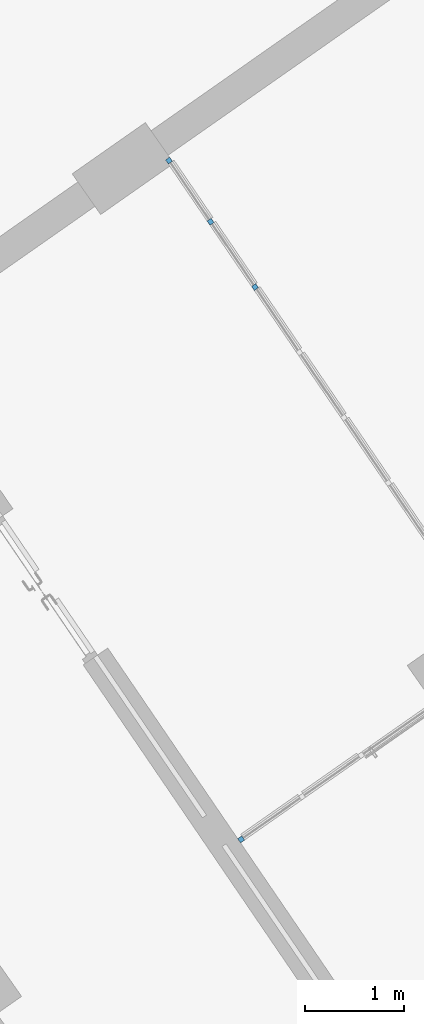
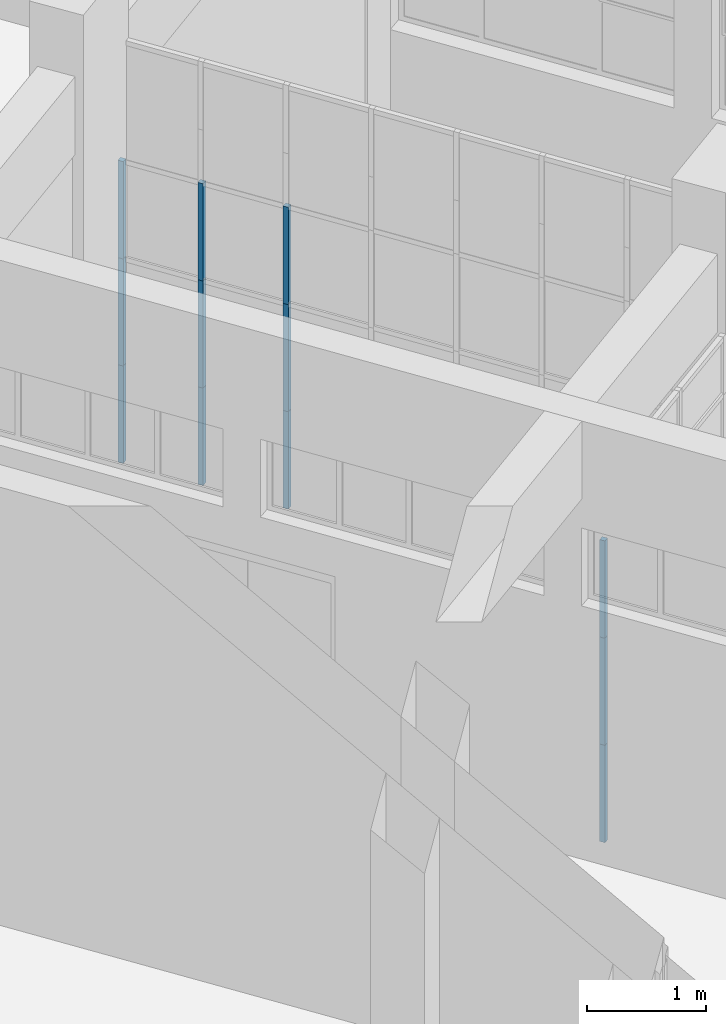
# One storey, part 4 of 157: 12 members, 2 elements without a shape of their own.
"""IFC2X3 building model written with IfcOpenShell, lengths in millimetres."""

from ifc_helpers import new_model, entity, si_unit, converted_unit, derived_unit, direction, frame, origin, origin_2d_with_axis, place, context, subcontext, project, spatial, rectangle, extrude, source, transform, mapped, material, type_object, type_shapes, element, aggregate, save


model = new_model("IFC2X3")

# Units and contexts
model_context = context("Model", 3, precision=0.01, world=origin(), true_north=direction((6.123031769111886e-17, 1.0)))
body_context = subcontext(model_context, "Body", "Model", "MODEL_VIEW")
ifc_project = project(units=[si_unit("LENGTHUNIT", "METRE", prefix="MILLI"), si_unit("AREAUNIT", "SQUARE_METRE"), si_unit("VOLUMEUNIT", "CUBIC_METRE"), converted_unit("PLANEANGLEUNIT", "DEGREE", entity("IfcRatioMeasure", 0.017453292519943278), si_unit("PLANEANGLEUNIT", "RADIAN"), dimensions=[0, 0, 0, 0, 0, 0, 0]), si_unit("MASSUNIT", "GRAM", prefix="KILO"), derived_unit("MASSDENSITYUNIT", [(si_unit("MASSUNIT", "GRAM", prefix="KILO"), 1), (si_unit("LENGTHUNIT", "METRE"), -3)]), derived_unit("MOMENTOFINERTIAUNIT", [(si_unit("LENGTHUNIT", "METRE"), 4)]), si_unit("TIMEUNIT", "SECOND"), si_unit("FREQUENCYUNIT", "HERTZ"), si_unit("THERMODYNAMICTEMPERATUREUNIT", "DEGREE_CELSIUS"), derived_unit("THERMALTRANSMITTANCEUNIT", [(si_unit("MASSUNIT", "GRAM", prefix="KILO"), 1), (si_unit("THERMODYNAMICTEMPERATUREUNIT", "KELVIN"), -1), (si_unit("TIMEUNIT", "SECOND"), -3)]), derived_unit("THERMALCONDUCTANCEUNIT", [(si_unit("MASSUNIT", "GRAM", prefix="KILO"), 1), (si_unit("LENGTHUNIT", "METRE"), 1), (si_unit("THERMODYNAMICTEMPERATUREUNIT", "KELVIN"), -1), (si_unit("TIMEUNIT", "SECOND"), -3)]), derived_unit("VOLUMETRICFLOWRATEUNIT", [(si_unit("LENGTHUNIT", "METRE"), 3), (si_unit("TIMEUNIT", "SECOND"), -1)]), derived_unit("MASSFLOWRATEUNIT", [(si_unit("MASSUNIT", "GRAM", prefix="KILO"), 1), (si_unit("TIMEUNIT", "SECOND"), -1)]), derived_unit("ROTATIONALFREQUENCYUNIT", [(si_unit("TIMEUNIT", "SECOND"), -1)]), si_unit("ELECTRICCURRENTUNIT", "AMPERE"), si_unit("ELECTRICVOLTAGEUNIT", "VOLT"), si_unit("POWERUNIT", "WATT"), converted_unit("FORCEUNIT", "KIP", entity("IfcRatioMeasure", 2.088543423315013e-05), si_unit("FORCEUNIT", "NEWTON"), dimensions=[1, 1, -2, 0, 0, 0, 0]), si_unit("ILLUMINANCEUNIT", "LUX"), si_unit("LUMINOUSFLUXUNIT", "LUMEN"), si_unit("LUMINOUSINTENSITYUNIT", "CANDELA"), derived_unit("USERDEFINED", [(si_unit("MASSUNIT", "GRAM", prefix="KILO"), -1), (si_unit("LENGTHUNIT", "METRE"), -2), (si_unit("TIMEUNIT", "SECOND"), 3), (si_unit("LUMINOUSFLUXUNIT", "LUMEN"), 1)]), derived_unit("USERDEFINED", [(si_unit("MASSUNIT", "GRAM", prefix="KILO"), 1), (si_unit("LENGTHUNIT", "METRE"), 3), (si_unit("TIMEUNIT", "SECOND"), -3), (si_unit("ELECTRICCURRENTUNIT", "AMPERE"), -2)]), derived_unit("USERDEFINED", [(si_unit("LENGTHUNIT", "METRE"), 2), (si_unit("TIMEUNIT", "SECOND"), -2)]), derived_unit("SOUNDPOWERUNIT", [(si_unit("MASSUNIT", "GRAM", prefix="KILO"), 1), (si_unit("LENGTHUNIT", "METRE"), 2), (si_unit("TIMEUNIT", "SECOND"), -3)]), derived_unit("SOUNDPRESSUREUNIT", [(si_unit("MASSUNIT", "GRAM", prefix="KILO"), 1), (si_unit("LENGTHUNIT", "METRE"), -1), (si_unit("TIMEUNIT", "SECOND"), -2)]), derived_unit("LINEARVELOCITYUNIT", [(si_unit("LENGTHUNIT", "METRE"), 1), (si_unit("TIMEUNIT", "SECOND"), -1)]), si_unit("PRESSUREUNIT", "PASCAL"), derived_unit("USERDEFINED", [(si_unit("LENGTHUNIT", "METRE"), -2), (si_unit("MASSUNIT", "GRAM", prefix="KILO"), 1), (si_unit("TIMEUNIT", "SECOND"), -2)]), derived_unit("LINEARFORCEUNIT", [(si_unit("MASSUNIT", "GRAM", prefix="KILO"), 1), (si_unit("LENGTHUNIT", "METRE"), 1), (si_unit("TIMEUNIT", "SECOND"), -2), (si_unit("LENGTHUNIT", "METRE"), -1)]), derived_unit("PLANARFORCEUNIT", [(si_unit("MASSUNIT", "GRAM", prefix="KILO"), 1), (si_unit("LENGTHUNIT", "METRE"), 1), (si_unit("TIMEUNIT", "SECOND"), -2), (si_unit("LENGTHUNIT", "METRE"), -2)]), derived_unit("SPECIFICHEATCAPACITYUNIT", [(si_unit("LENGTHUNIT", "METRE"), 2), (si_unit("TIMEUNIT", "SECOND"), -2), (si_unit("THERMODYNAMICTEMPERATUREUNIT", "KELVIN"), -1)]), derived_unit("VAPORPERMEABILITYUNIT", [(si_unit("TIMEUNIT", "SECOND"), 1), (si_unit("LENGTHUNIT", "METRE"), -1)]), derived_unit("DYNAMICVISCOSITYUNIT", [(si_unit("MASSUNIT", "GRAM", prefix="KILO"), 1), (si_unit("LENGTHUNIT", "METRE"), -1), (si_unit("TIMEUNIT", "SECOND"), -1)]), derived_unit("THERMALEXPANSIONCOEFFICIENTUNIT", [(si_unit("THERMODYNAMICTEMPERATUREUNIT", "KELVIN"), -1)])], contexts=[model_context])

# Site, building, storey
site_placement = place(None, frame((0.0, 0.0, 0.0), z_axis=(0.0, 0.0, 1.0), x_axis=(0.8191520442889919, 0.5735764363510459, 0.0)))
site = spatial("IfcSite", under=ifc_project, at=site_placement, Name="Default", CompositionType="ELEMENT")
building_placement = place(site_placement, origin())
building = spatial("IfcBuilding", under=site, at=building_placement, CompositionType="ELEMENT")
storey_placement = place(building_placement, origin())
storey = spatial("IfcBuildingStorey", under=building, at=storey_placement, Name="1.EG +0.00", CompositionType="ELEMENT", Elevation=-4.331468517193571e-12)

# Curtain wall, members
curtain_wall_type = type_object("IfcCurtainWallType", Name="Curtain Wall:Curtain_Wall_CJC_Int5", PredefinedType="NOTDEFINED")
curtain_wall_1_placement = place(storey_placement, origin())
curtain_wall_1 = element("IfcCurtainWall", 1, at=curtain_wall_1_placement, inside=storey, type_object=curtain_wall_type, Name="Curtain Wall:Curtain_Wall_CJC_Int5", ObjectType="Curtain Wall:Curtain_Wall_CJC_Int5")
ifc_material = material(Name="Aluminium")
member_type_1 = type_object("IfcMemberType", Name="Rectangular Mullion:5x5", PredefinedType="MULLION", material=ifc_material)
shared_shape_1 = source(origin(), body_context, "Body", "SweptSolid", [
    extrude(rectangle(XDim=50.0, YDim=50.0, at=origin_2d_with_axis()), frame((-25.0, 0.0, -1000.0), z_axis=(0.0, 0.0, 1.0), x_axis=(0.0, -1.0, 0.0)), (0.0, 0.0, 1.0), 1000.0000000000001),
])
type_shapes(member_type_1, [shared_shape_1])
member_1_placement = place(curtain_wall_1_placement, frame((-211034.7388322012, 73221.3589143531, 0.0), z_axis=(0.0, 0.0, -1.0), x_axis=(0.013317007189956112, 0.9999113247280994, 0.0)))
member_1 = element("IfcMember", 2, at=member_1_placement, type_object=member_type_1, material=ifc_material, Name="Rectangular Mullion:5x5", ObjectType="Rectangular Mullion:5x5", context=body_context, shape_type="MappedRepresentation", body=[
    mapped(shared_shape_1, transform((0.0, 0.0, 0.0), scale=1.0)),
])
member_type_2 = type_object("IfcMemberType", Name="Rectangular Mullion:5x5", PredefinedType="MULLION", material=ifc_material)
shared_shape_2 = source(origin(), body_context, "Body", "SweptSolid", [
    extrude(rectangle(XDim=50.0, YDim=50.0, at=origin_2d_with_axis()), frame((-25.0, 0.0, -1100.0), z_axis=(0.0, 0.0, 1.0), x_axis=(0.0, -1.0, 0.0)), (0.0, 0.0, 1.0), 1100.0),
])
type_shapes(member_type_2, [shared_shape_2])
member_2_placement = place(curtain_wall_1_placement, frame((-211034.7388322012, 73221.3589143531, 1000.0), z_axis=(0.0, 0.0, -1.0), x_axis=(0.013317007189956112, 0.9999113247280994, 0.0)))
member_2 = element("IfcMember", 3, at=member_2_placement, type_object=member_type_2, material=ifc_material, Name="Rectangular Mullion:5x5", ObjectType="Rectangular Mullion:5x5", context=body_context, shape_type="MappedRepresentation", body=[
    mapped(shared_shape_2, transform((0.0, 0.0, 0.0), scale=1.0)),
])
member_type_3 = type_object("IfcMemberType", Name="Rectangular Mullion:5x5", PredefinedType="MULLION", material=ifc_material)
shared_shape_3 = source(origin(), body_context, "Body", "SweptSolid", [
    extrude(rectangle(XDim=50.0, YDim=50.0, at=origin_2d_with_axis()), frame((-25.0, 0.0, -1000.0), z_axis=(0.0, 0.0, 1.0), x_axis=(0.0, -1.0, 0.0)), (0.0, 0.0, 1.0), 1000.0000000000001),
])
type_shapes(member_type_3, [shared_shape_3])
member_3_placement = place(curtain_wall_1_placement, frame((-211034.7388322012, 73221.3589143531, 2100.0), z_axis=(0.0, 0.0, -1.0), x_axis=(0.013317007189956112, 0.9999113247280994, 0.0)))
member_3 = element("IfcMember", 4, at=member_3_placement, type_object=member_type_3, material=ifc_material, Name="Rectangular Mullion:5x5", ObjectType="Rectangular Mullion:5x5", context=body_context, shape_type="MappedRepresentation", body=[
    mapped(shared_shape_3, transform((0.0, 0.0, 0.0), scale=1.0)),
])
member_type_4 = type_object("IfcMemberType", Name="Rectangular Mullion:5x5", PredefinedType="MULLION", material=ifc_material)
shared_shape_4 = source(origin(), body_context, "Body", "SweptSolid", [
    extrude(rectangle(XDim=50.0, YDim=50.0, at=origin_2d_with_axis()), frame((0.0, 0.0, -1000.0), z_axis=(0.0, 0.0, 1.0), x_axis=(0.0, -1.0, 0.0)), (0.0, 0.0, 1.0), 1000.0000000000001),
])
type_shapes(member_type_4, [shared_shape_4])
member_4_placement = place(curtain_wall_1_placement, frame((-211055.61802831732, 71653.63845359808, 0.0), z_axis=(0.0, 0.0, -1.0), x_axis=(0.013317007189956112, 0.9999113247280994, 0.0)))
member_4 = element("IfcMember", 5, at=member_4_placement, type_object=member_type_4, material=ifc_material, Name="Rectangular Mullion:5x5", ObjectType="Rectangular Mullion:5x5", context=body_context, shape_type="MappedRepresentation", body=[
    mapped(shared_shape_4, transform((0.0, 0.0, 0.0), scale=1.0)),
])
member_5_placement = place(curtain_wall_1_placement, frame((-211045.01196767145, 72449.99757538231, 0.0), z_axis=(0.0, 0.0, -1.0), x_axis=(0.013317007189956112, 0.9999113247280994, 0.0)))
member_5 = element("IfcMember", 6, at=member_5_placement, type_object=member_type_4, material=ifc_material, Name="Rectangular Mullion:5x5", ObjectType="Rectangular Mullion:5x5", context=body_context, shape_type="MappedRepresentation", body=[
    mapped(shared_shape_4, transform((0.0, 0.0, 0.0), scale=1.0)),
])
member_type_5 = type_object("IfcMemberType", Name="Rectangular Mullion:5x5", PredefinedType="MULLION", material=ifc_material)
shared_shape_5 = source(origin(), body_context, "Body", "SweptSolid", [
    extrude(rectangle(XDim=50.0, YDim=50.0, at=origin_2d_with_axis()), frame((0.0, 0.0, -1100.0), z_axis=(0.0, 0.0, 1.0), x_axis=(0.0, -1.0, 0.0)), (0.0, 0.0, 1.0), 1100.0),
])
type_shapes(member_type_5, [shared_shape_5])
member_6_placement = place(curtain_wall_1_placement, frame((-211055.61802831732, 71653.63845359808, 1000.0), z_axis=(0.0, 0.0, -1.0), x_axis=(0.013317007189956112, 0.9999113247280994, 0.0)))
member_6 = element("IfcMember", 7, at=member_6_placement, type_object=member_type_5, material=ifc_material, Name="Rectangular Mullion:5x5", ObjectType="Rectangular Mullion:5x5", context=body_context, shape_type="MappedRepresentation", body=[
    mapped(shared_shape_5, transform((0.0, 0.0, 0.0), scale=1.0)),
])
member_7_placement = place(curtain_wall_1_placement, frame((-211045.01196767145, 72449.99757538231, 1000.0), z_axis=(0.0, 0.0, -1.0), x_axis=(0.013317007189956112, 0.9999113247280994, 0.0)))
member_7 = element("IfcMember", 8, at=member_7_placement, type_object=member_type_5, material=ifc_material, Name="Rectangular Mullion:5x5", ObjectType="Rectangular Mullion:5x5", context=body_context, shape_type="MappedRepresentation", body=[
    mapped(shared_shape_5, transform((0.0, 0.0, 0.0), scale=1.0)),
])
member_type_6 = type_object("IfcMemberType", Name="Rectangular Mullion:5x5", PredefinedType="MULLION", material=ifc_material)
shared_shape_6 = source(origin(), body_context, "Body", "SweptSolid", [
    extrude(rectangle(XDim=50.0, YDim=50.0, at=origin_2d_with_axis()), frame((0.0, 0.0, -1000.0), z_axis=(0.0, 0.0, 1.0), x_axis=(0.0, -1.0, 0.0)), (0.0, 0.0, 1.0), 1000.0000000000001),
])
type_shapes(member_type_6, [shared_shape_6])
member_8_placement = place(curtain_wall_1_placement, frame((-211055.61802831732, 71653.63845359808, 2100.0), z_axis=(0.0, 0.0, -1.0), x_axis=(0.013317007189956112, 0.9999113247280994, 0.0)))
member_8 = element("IfcMember", 9, at=member_8_placement, type_object=member_type_6, material=ifc_material, Name="Rectangular Mullion:5x5", ObjectType="Rectangular Mullion:5x5", context=body_context, shape_type="MappedRepresentation", body=[
    mapped(shared_shape_6, transform((0.0, 0.0, 0.0), scale=1.0)),
])
member_9_placement = place(curtain_wall_1_placement, frame((-211045.01196767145, 72449.99757538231, 2100.0), z_axis=(0.0, 0.0, -1.0), x_axis=(0.013317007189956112, 0.9999113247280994, 0.0)))
member_9 = element("IfcMember", 10, at=member_9_placement, type_object=member_type_6, material=ifc_material, Name="Rectangular Mullion:5x5", ObjectType="Rectangular Mullion:5x5", context=body_context, shape_type="MappedRepresentation", body=[
    mapped(shared_shape_6, transform((0.0, 0.0, 0.0), scale=1.0)),
])
aggregate(curtain_wall_1, [member_1, member_2, member_3, member_4, member_5, member_6, member_7, member_8, member_9])

curtain_wall_2_placement = place(storey_placement, origin())
curtain_wall_2 = element("IfcCurtainWall", 11, at=curtain_wall_2_placement, inside=storey, type_object=curtain_wall_type, Name="Curtain Wall:Curtain_Wall_CJC_Int5", ObjectType="Curtain Wall:Curtain_Wall_CJC_Int5")
member_type_7 = type_object("IfcMemberType", Name="Rectangular Mullion:5x5", PredefinedType="MULLION", material=ifc_material)
shared_shape_7 = source(origin(), body_context, "Body", "SweptSolid", [
    extrude(rectangle(XDim=50.000000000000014, YDim=50.0, at=origin_2d_with_axis()), frame((-25.0, 0.0, -1000.0), z_axis=(0.0, 0.0, 1.0), x_axis=(0.0, -1.0, 0.0)), (0.0, 0.0, 1.0), 1000.0000000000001),
])
type_shapes(member_type_7, [shared_shape_7])
member_10_placement = place(curtain_wall_2_placement, frame((-214390.28585286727, 67171.35891435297, 1000.0), z_axis=(0.0, 0.0, 1.0), x_axis=(-1.0, 0.0, 0.0)))
member_10 = element("IfcMember", 12, at=member_10_placement, type_object=member_type_7, material=ifc_material, Name="Rectangular Mullion:5x5", ObjectType="Rectangular Mullion:5x5", context=body_context, shape_type="MappedRepresentation", body=[
    mapped(shared_shape_7, transform((0.0, 0.0, 0.0), scale=1.0)),
])
member_type_8 = type_object("IfcMemberType", Name="Rectangular Mullion:5x5", PredefinedType="MULLION", material=ifc_material)
shared_shape_8 = source(origin(), body_context, "Body", "SweptSolid", [
    extrude(rectangle(XDim=50.000000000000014, YDim=50.0, at=origin_2d_with_axis()), frame((-25.0, 0.0, -1100.0), z_axis=(0.0, 0.0, 1.0), x_axis=(0.0, -1.0, 0.0)), (0.0, 0.0, 1.0), 1100.0),
])
type_shapes(member_type_8, [shared_shape_8])
member_11_placement = place(curtain_wall_2_placement, frame((-214390.28585286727, 67171.35891435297, 2100.0), z_axis=(0.0, 0.0, 1.0), x_axis=(-1.0, 0.0, 0.0)))
member_11 = element("IfcMember", 13, at=member_11_placement, type_object=member_type_8, material=ifc_material, Name="Rectangular Mullion:5x5", ObjectType="Rectangular Mullion:5x5", context=body_context, shape_type="MappedRepresentation", body=[
    mapped(shared_shape_8, transform((0.0, 0.0, 0.0), scale=1.0)),
])
member_type_9 = type_object("IfcMemberType", Name="Rectangular Mullion:5x5", PredefinedType="MULLION", material=ifc_material)
shared_shape_9 = source(origin(), body_context, "Body", "SweptSolid", [
    extrude(rectangle(XDim=50.0, YDim=50.0, at=origin_2d_with_axis()), frame((-25.0, 0.0, -1000.0), z_axis=(0.0, 0.0, 1.0), x_axis=(0.0, -1.0, 0.0)), (0.0, 0.0, 1.0), 1000.0000000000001),
])
type_shapes(member_type_9, [shared_shape_9])
member_12_placement = place(curtain_wall_2_placement, frame((-214390.28585286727, 67171.35891435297, 3100.0), z_axis=(0.0, 0.0, 1.0), x_axis=(-1.0, 0.0, 0.0)))
member_12 = element("IfcMember", 14, at=member_12_placement, type_object=member_type_9, material=ifc_material, Name="Rectangular Mullion:5x5", ObjectType="Rectangular Mullion:5x5", context=body_context, shape_type="MappedRepresentation", body=[
    mapped(shared_shape_9, transform((0.0, 0.0, 0.0), scale=1.0)),
])
aggregate(curtain_wall_2, [member_10, member_11, member_12])

save(model, "model.ifc")
